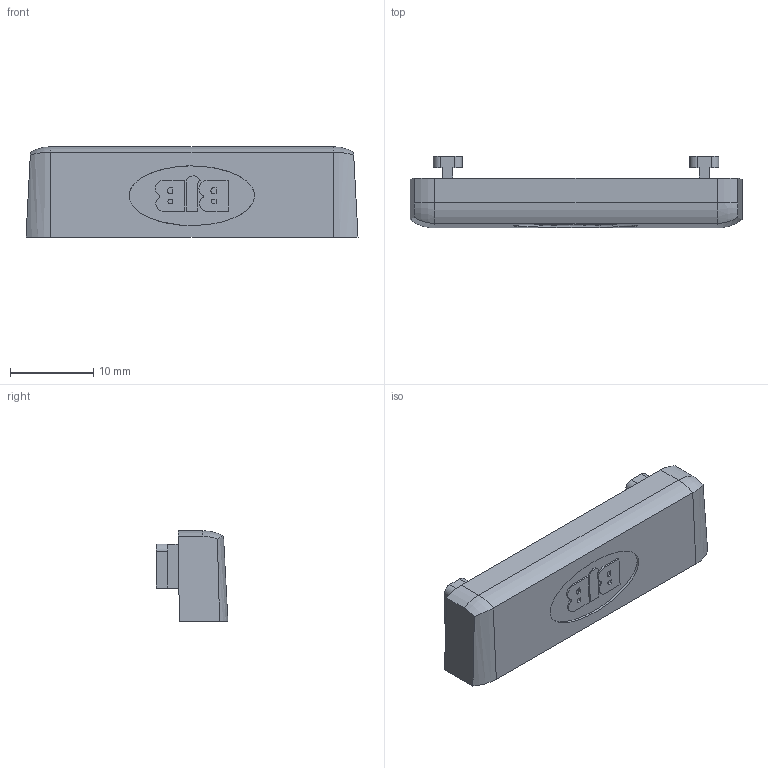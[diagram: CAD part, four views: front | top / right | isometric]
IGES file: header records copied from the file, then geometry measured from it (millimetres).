
Global section: file name: C:\CoreTechnologie\3D-in\021Y904Y02.igs; native system: CT CoreTechnologie 3D Evolution; preprocessor: 2006; date: 1180418.081832; units: millimetre
Bounding box: 40 x 8.65 x 10.9 mm (x, y, z)
Volume: 921.4 mm3; surface area: 1685.8 mm2
Topology: 1 solids, 1 shells, 95 faces, 247 edges, 162 vertices
Faces by surface type: plane 66, revolution 27, bspline 2
